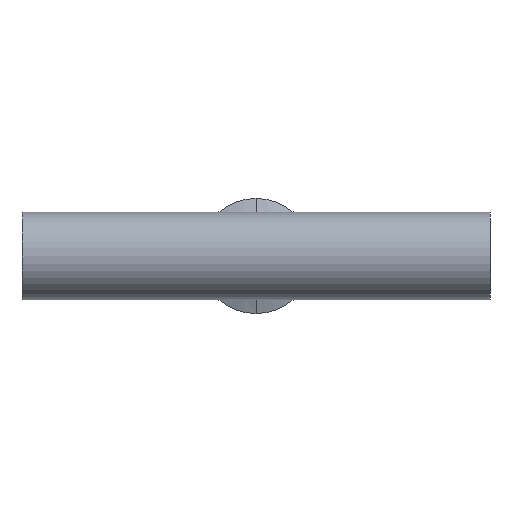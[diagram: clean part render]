
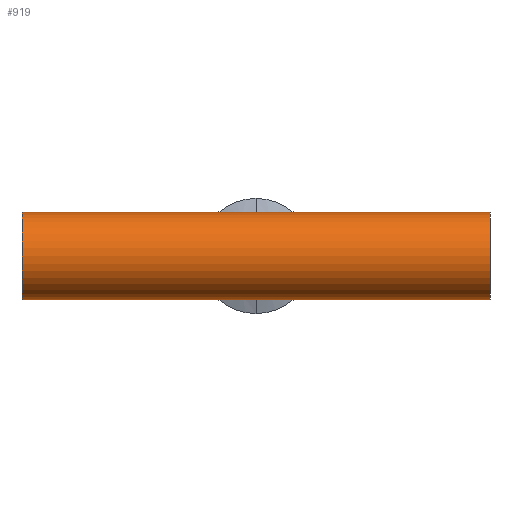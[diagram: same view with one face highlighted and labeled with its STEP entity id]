
A CAD part, front view. The second image highlights one B-rep face of the part: STEP entity #919.
In plain terms, the highlighted cylindrical face has radius 9.525 mm (diameter 19.05 mm), a partial arc.
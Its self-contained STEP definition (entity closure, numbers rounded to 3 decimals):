
#47 = AXIS2_PLACEMENT_3D ( 'NONE', #909, #470, #914 ) ;
#50 = EDGE_CURVE ( 'NONE', #811, #763, #671, .T. ) ;
#98 = ORIENTED_EDGE ( 'NONE', *, *, #289, .F. ) ;
#122 = VERTEX_POINT ( 'NONE', #698 ) ;
#178 = DIRECTION ( 'NONE',  ( 1., 0., 0. ) ) ;
#269 = CYLINDRICAL_SURFACE ( 'NONE', #47, 9.525 ) ;
#273 = ORIENTED_EDGE ( 'NONE', *, *, #660, .T. ) ;
#289 = EDGE_CURVE ( 'NONE', #122, #763, #359, .T. ) ;
#325 = ORIENTED_EDGE ( 'NONE', *, *, #331, .T. ) ;
#331 = EDGE_CURVE ( 'NONE', #708, #811, #882, .T. ) ;
#337 = ORIENTED_EDGE ( 'NONE', *, *, #50, .T. ) ;
#350 = CARTESIAN_POINT ( 'NONE',  ( -50.8, 0., -9.525 ) ) ;
#356 = DIRECTION ( 'NONE',  ( 0., 0., -1. ) ) ;
#359 = LINE ( 'NONE', #659, #427 ) ;
#401 = DIRECTION ( 'NONE',  ( 1., 0., 0. ) ) ;
#427 = VECTOR ( 'NONE', #178, 1000. ) ;
#430 = FACE_OUTER_BOUND ( 'NONE', #529, .T. ) ;
#453 = CARTESIAN_POINT ( 'NONE',  ( -50.8, 0., 0. ) ) ;
#470 = DIRECTION ( 'NONE',  ( 1., 0., 0. ) ) ;
#529 = EDGE_LOOP ( 'NONE', ( #98, #273, #325, #337 ) ) ;
#629 = VECTOR ( 'NONE', #401, 1000. ) ;
#647 = DIRECTION ( 'NONE',  ( 1., 0., 0. ) ) ;
#659 = CARTESIAN_POINT ( 'NONE',  ( -50.8, 0., 9.525 ) ) ;
#660 = EDGE_CURVE ( 'NONE', #122, #708, #1055, .T. ) ;
#671 = CIRCLE ( 'NONE', #766, 9.525 ) ;
#698 = CARTESIAN_POINT ( 'NONE',  ( -50.8, 0., 9.525 ) ) ;
#708 = VERTEX_POINT ( 'NONE', #1163 ) ;
#763 = VERTEX_POINT ( 'NONE', #1108 ) ;
#766 = AXIS2_PLACEMENT_3D ( 'NONE', #981, #975, #969 ) ;
#811 = VERTEX_POINT ( 'NONE', #932 ) ;
#882 = LINE ( 'NONE', #350, #629 ) ;
#909 = CARTESIAN_POINT ( 'NONE',  ( -50.8, 0., 0. ) ) ;
#914 = DIRECTION ( 'NONE',  ( 0., 0., -1. ) ) ;
#919 = ADVANCED_FACE ( 'NONE', ( #430 ), #269, .T. ) ;
#932 = CARTESIAN_POINT ( 'NONE',  ( 50.8, 0., -9.525 ) ) ;
#969 = DIRECTION ( 'NONE',  ( 0., 0., -1. ) ) ;
#975 = DIRECTION ( 'NONE',  ( -1., 0., 0. ) ) ;
#981 = CARTESIAN_POINT ( 'NONE',  ( 50.8, 0., 0. ) ) ;
#1013 = AXIS2_PLACEMENT_3D ( 'NONE', #453, #647, #356 ) ;
#1055 = CIRCLE ( 'NONE', #1013, 9.525 ) ;
#1108 = CARTESIAN_POINT ( 'NONE',  ( 50.8, 0., 9.525 ) ) ;
#1163 = CARTESIAN_POINT ( 'NONE',  ( -50.8, 0., -9.525 ) ) ;
